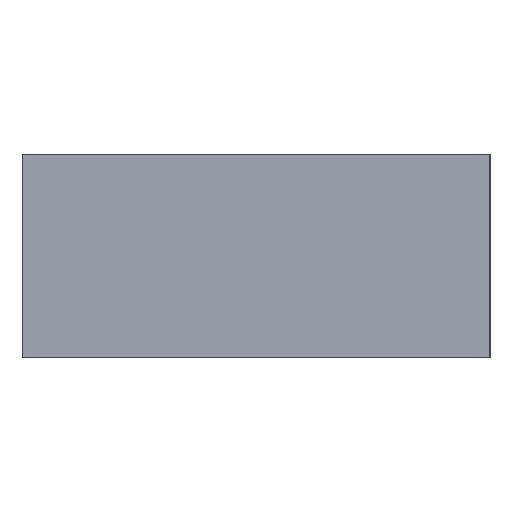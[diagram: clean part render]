
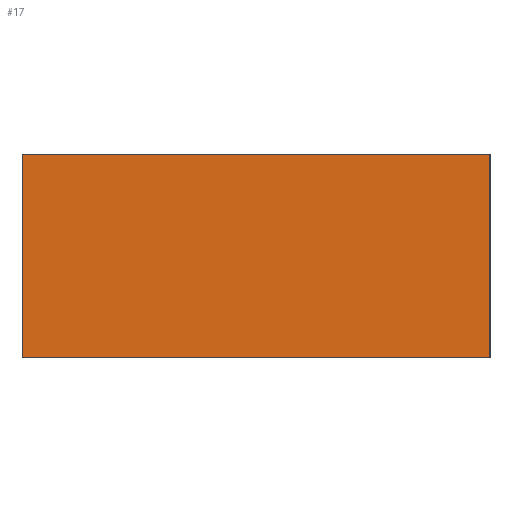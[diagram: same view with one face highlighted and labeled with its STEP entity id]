
A CAD part, left-side view. The second image highlights one B-rep face of the part: STEP entity #17.
In plain terms, the highlighted planar face has unit normal (-1, 0, 0).
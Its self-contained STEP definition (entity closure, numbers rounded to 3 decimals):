
#17 = ADVANCED_FACE('',(#18),#52,.F.);
#18 = FACE_BOUND('',#19,.F.);
#19 = EDGE_LOOP('',(#20,#30,#38,#46));
#20 = ORIENTED_EDGE('',*,*,#21,.F.);
#21 = EDGE_CURVE('',#22,#24,#26,.T.);
#22 = VERTEX_POINT('',#23);
#23 = CARTESIAN_POINT('',(-14.5,-34.013,71.563));
#24 = VERTEX_POINT('',#25);
#25 = CARTESIAN_POINT('',(-14.5,-34.013,73.563));
#26 = LINE('',#27,#28);
#27 = CARTESIAN_POINT('',(-14.5,-34.013,71.563));
#28 = VECTOR('',#29,1.);
#29 = DIRECTION('',(0.,0.,1.));
#30 = ORIENTED_EDGE('',*,*,#31,.T.);
#31 = EDGE_CURVE('',#22,#32,#34,.T.);
#32 = VERTEX_POINT('',#33);
#33 = CARTESIAN_POINT('',(-14.5,-29.413,71.563));
#34 = LINE('',#35,#36);
#35 = CARTESIAN_POINT('',(-14.5,-34.013,71.563));
#36 = VECTOR('',#37,1.);
#37 = DIRECTION('',(0.,1.,0.));
#38 = ORIENTED_EDGE('',*,*,#39,.T.);
#39 = EDGE_CURVE('',#32,#40,#42,.T.);
#40 = VERTEX_POINT('',#41);
#41 = CARTESIAN_POINT('',(-14.5,-29.413,73.563));
#42 = LINE('',#43,#44);
#43 = CARTESIAN_POINT('',(-14.5,-29.413,71.563));
#44 = VECTOR('',#45,1.);
#45 = DIRECTION('',(0.,0.,1.));
#46 = ORIENTED_EDGE('',*,*,#47,.F.);
#47 = EDGE_CURVE('',#24,#40,#48,.T.);
#48 = LINE('',#49,#50);
#49 = CARTESIAN_POINT('',(-14.5,-34.013,73.563));
#50 = VECTOR('',#51,1.);
#51 = DIRECTION('',(0.,1.,0.));
#52 = PLANE('',#53);
#53 = AXIS2_PLACEMENT_3D('',#54,#55,#56);
#54 = CARTESIAN_POINT('',(-14.5,-34.013,71.563));
#55 = DIRECTION('',(1.,0.,0.));
#56 = DIRECTION('',(0.,0.,1.));
